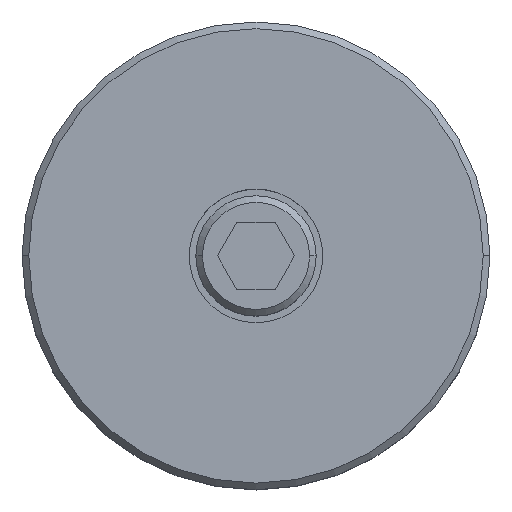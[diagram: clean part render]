
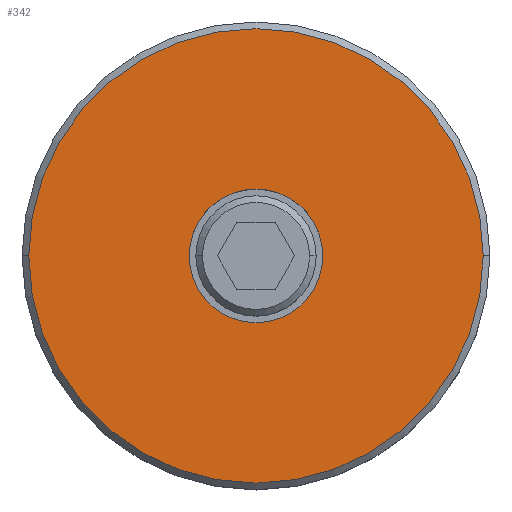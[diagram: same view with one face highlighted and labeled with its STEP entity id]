
A CAD part, top view. The second image highlights one B-rep face of the part: STEP entity #342.
In plain terms, the highlighted planar face has unit normal (0, 0, 1).
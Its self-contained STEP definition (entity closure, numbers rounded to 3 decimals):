
#101=VERTEX_POINT(' ',#102);
#102=CARTESIAN_POINT('',(-10.,0.,20.));
#103=VERTEX_POINT(' ',#104);
#104=CARTESIAN_POINT('',(10.,0.,20.));
#105=VERTEX_POINT(' ',#106);
#106=CARTESIAN_POINT('',(-34.,0.,20.));
#107=VERTEX_POINT(' ',#108);
#108=CARTESIAN_POINT('',(34.,0.,20.));
#172=CIRCLE('',#173,10.);
#173=AXIS2_PLACEMENT_3D('',#174,#175,#176);
#174=CARTESIAN_POINT('',(0.,0.,20.));
#175=DIRECTION('',(0.,0.,-1.));
#176=DIRECTION('',(0.,1.,0.));
#177=EDGE_CURVE(' ',#103,#101,#172,.T.);
#183=CIRCLE('',#184,10.);
#184=AXIS2_PLACEMENT_3D('',#185,#186,#187);
#185=CARTESIAN_POINT('',(0.,0.,20.));
#186=DIRECTION('',(0.,0.,-1.));
#187=DIRECTION('',(0.,-1.,0.));
#188=EDGE_CURVE(' ',#101,#103,#183,.T.);
#189=CIRCLE('',#190,34.);
#190=AXIS2_PLACEMENT_3D('',#191,#192,#193);
#191=CARTESIAN_POINT('',(0.,0.,20.));
#192=DIRECTION('',(0.,0.,-1.));
#193=DIRECTION('',(0.,1.,0.));
#194=EDGE_CURVE(' ',#107,#105,#189,.T.);
#195=CIRCLE('',#196,34.);
#196=AXIS2_PLACEMENT_3D('',#197,#198,#199);
#197=CARTESIAN_POINT('',(0.,0.,20.));
#198=DIRECTION('',(0.,0.,-1.));
#199=DIRECTION('',(0.,-1.,0.));
#200=EDGE_CURVE(' ',#105,#107,#195,.T.);
#329=ORIENTED_EDGE('',*,*,#194,.F.);
#330=ORIENTED_EDGE('',*,*,#200,.F.);
#331=EDGE_LOOP('',(#329,#330));
#332=FACE_OUTER_BOUND('',#331,.T.);
#333=ORIENTED_EDGE('',*,*,#188,.T.);
#334=ORIENTED_EDGE('',*,*,#177,.T.);
#335=EDGE_LOOP('',(#333,#334));
#336=FACE_BOUND('',#335,.T.);
#337=PLANE('',#338);
#338=AXIS2_PLACEMENT_3D('',#339,#340,#341);
#339=CARTESIAN_POINT('',(0.,0.,20.));
#340=DIRECTION('',(0.,0.,1.));
#341=DIRECTION('',(0.,1.,0.));
#342=ADVANCED_FACE('',(#332,#336),#337,.T.);
